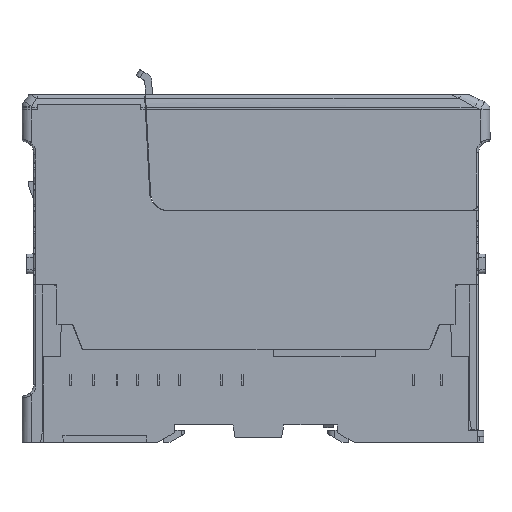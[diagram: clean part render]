
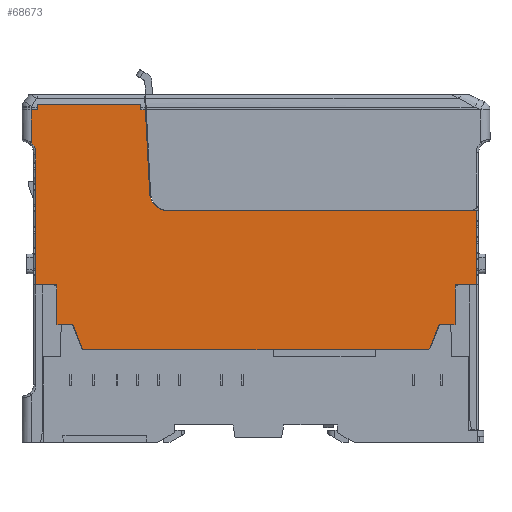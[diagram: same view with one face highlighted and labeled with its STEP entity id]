
A CAD part, left-side view. The second image highlights one B-rep face of the part: STEP entity #68673.
In plain terms, the highlighted planar face has unit normal (-1, 0, 0).
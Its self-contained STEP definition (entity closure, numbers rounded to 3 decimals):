
#54202=DIRECTION('',(0.,0.,1.));
#54203=VECTOR('',#54202,16.);
#54204=CARTESIAN_POINT('',(-2.1,3.,34.));
#54205=LINE('',#54204,#54203);
#54823=CARTESIAN_POINT('',(-2.1,98.034,
62.05));
#55124=CARTESIAN_POINT('',(-2.1,98.034,
62.05));
#55125=CARTESIAN_POINT('',(-2.1,98.03,
62.05));
#55126=CARTESIAN_POINT('',(-2.1,98.023,
62.05));
#55127=CARTESIAN_POINT('',(-2.1,98.011,
62.05));
#55128=CARTESIAN_POINT('',(-2.1,98.004,62.05));
#55129=CARTESIAN_POINT('',(-2.1,98.,62.05));
#55131=DIRECTION('',(0.,0.,-1.));
#55132=VECTOR('',#55131,28.05);
#55133=CARTESIAN_POINT('',(-2.1,98.,62.05));
#55134=LINE('',#55133,#55132);
#55223=CARTESIAN_POINT('',(-2.1,101.,62.5));
#55224=DIRECTION('',(-1.,0.,0.));
#55225=DIRECTION('',(0.,-0.989,-0.15));
#55226=AXIS2_PLACEMENT_3D('',#55223,#55224,#55225);
#55228=DIRECTION('',(0.,0.,1.));
#55229=VECTOR('',#55228,7.064);
#55230=CARTESIAN_POINT('',(-2.1,99.,
64.736));
#55231=LINE('',#55230,#55229);
#55232=DIRECTION('',(0.,0.,1.));
#55233=VECTOR('',#55232,1.2);
#55234=CARTESIAN_POINT('',(-2.1,97.705,71.8));
#55235=LINE('',#55234,#55233);
#55236=DIRECTION('',(0.,-1.,0.));
#55237=VECTOR('',#55236,22.278);
#55238=CARTESIAN_POINT('',(-2.1,97.705,73.));
#55239=LINE('',#55238,#55237);
#55240=DIRECTION('',(0.,-0.052,-0.999));
#55241=VECTOR('',#55240,1.202);
#55242=CARTESIAN_POINT('',(-2.1,75.427,73.));
#55243=LINE('',#55242,#55241);
#55244=DIRECTION('',(0.,-0.052,-0.999));
#55245=VECTOR('',#55244,18.034);
#55246=CARTESIAN_POINT('',(-2.1,74.385,71.8));
#55247=LINE('',#55246,#55245);
#55248=CARTESIAN_POINT('',(-2.1,69.446,54.));
#55249=DIRECTION('',(-1.,0.,0.));
#55250=DIRECTION('',(0.,0.999,-0.052));
#55251=AXIS2_PLACEMENT_3D('',#55248,#55249,#55250);
#55253=DIRECTION('',(0.,-1.,0.));
#55254=VECTOR('',#55253,66.446);
#55255=CARTESIAN_POINT('',(-2.1,69.446,50.));
#55256=LINE('',#55255,#55254);
#55257=DIRECTION('',(0.,1.,0.));
#55258=VECTOR('',#55257,4.55);
#55259=CARTESIAN_POINT('',(-2.1,3.,34.));
#55260=LINE('',#55259,#55258);
#55261=DIRECTION('',(0.,0.,-1.));
#55262=VECTOR('',#55261,8.549);
#55263=CARTESIAN_POINT('',(-2.1,7.55,34.));
#55264=LINE('',#55263,#55262);
#55265=DIRECTION('',(0.,1.,0.));
#55266=VECTOR('',#55265,3.416);
#55267=CARTESIAN_POINT('',(-2.1,7.55,25.451));
#55268=LINE('',#55267,#55266);
#55269=DIRECTION('',(0.,0.366,-0.931));
#55270=VECTOR('',#55269,5.175);
#55271=CARTESIAN_POINT('',(-2.1,10.966,25.451));
#55272=LINE('',#55271,#55270);
#55273=CARTESIAN_POINT('',(-2.1,13.789,21.));
#55274=DIRECTION('',(1.,0.,0.));
#55275=DIRECTION('',(0.,-0.931,-0.366));
#55276=AXIS2_PLACEMENT_3D('',#55273,#55274,#55275);
#55278=DIRECTION('',(0.,1.,0.));
#55279=VECTOR('',#55278,73.422);
#55280=CARTESIAN_POINT('',(-2.1,13.789,20.));
#55281=LINE('',#55280,#55279);
#55282=CARTESIAN_POINT('',(-2.1,87.211,21.));
#55283=DIRECTION('',(1.,0.,0.));
#55284=DIRECTION('',(0.,0.,-1.));
#55285=AXIS2_PLACEMENT_3D('',#55282,#55283,#55284);
#55287=DIRECTION('',(0.,0.366,0.931));
#55288=VECTOR('',#55287,5.175);
#55289=CARTESIAN_POINT('',(-2.1,88.142,20.634));
#55290=LINE('',#55289,#55288);
#55291=DIRECTION('',(0.,1.,0.));
#55292=VECTOR('',#55291,3.416);
#55293=CARTESIAN_POINT('',(-2.1,90.034,25.451));
#55294=LINE('',#55293,#55292);
#55295=DIRECTION('',(0.,0.,1.));
#55296=VECTOR('',#55295,8.549);
#55297=CARTESIAN_POINT('',(-2.1,93.45,25.451));
#55298=LINE('',#55297,#55296);
#55299=DIRECTION('',(0.,1.,0.));
#55300=VECTOR('',#55299,4.55);
#55301=CARTESIAN_POINT('',(-2.1,93.45,34.));
#55302=LINE('',#55301,#55300);
#55479=DIRECTION('',(0.,1.,0.));
#55480=VECTOR('',#55479,0.98);
#55481=CARTESIAN_POINT('',(-2.1,74.385,71.8));
#55482=LINE('',#55481,#55480);
#55528=DIRECTION('',(0.,1.,0.));
#55529=VECTOR('',#55528,1.297);
#55530=CARTESIAN_POINT('',(-2.1,97.705,71.8));
#55531=LINE('',#55530,#55529);
#64460=CARTESIAN_POINT('',(-2.1,3.,50.));
#64462=VERTEX_POINT('',#64460);
#64463=CARTESIAN_POINT('',(-2.1,69.446,50.));
#64464=VERTEX_POINT('',#64463);
#64637=CARTESIAN_POINT('',(-2.1,3.,34.));
#64638=VERTEX_POINT('',#64637);
#65106=VERTEX_POINT('',#54823);
#65273=CARTESIAN_POINT('',(-2.1,97.705,73.));
#65274=VERTEX_POINT('',#65273);
#65275=CARTESIAN_POINT('',(-2.1,97.705,71.8));
#65276=VERTEX_POINT('',#65275);
#65348=CARTESIAN_POINT('',(-2.1,99.001,
71.8));
#65349=VERTEX_POINT('',#65348);
#65350=CARTESIAN_POINT('',(-2.1,75.364,71.8));
#65351=VERTEX_POINT('',#65350);
#65352=CARTESIAN_POINT('',(-2.1,74.385,71.8));
#65353=VERTEX_POINT('',#65352);
#65354=CARTESIAN_POINT('',(-2.1,98.,62.05));
#65355=CARTESIAN_POINT('',(-2.1,98.,34.));
#65356=VERTEX_POINT('',#65354);
#65357=VERTEX_POINT('',#65355);
#65358=CARTESIAN_POINT('',(-2.1,99.,64.736));
#65359=VERTEX_POINT('',#65358);
#65360=CARTESIAN_POINT('',(-2.1,75.427,73.));
#65361=VERTEX_POINT('',#65360);
#65362=CARTESIAN_POINT('',(-2.1,73.441,53.791));
#65363=VERTEX_POINT('',#65362);
#65364=CARTESIAN_POINT('',(-2.1,7.55,34.));
#65365=VERTEX_POINT('',#65364);
#65366=CARTESIAN_POINT('',(-2.1,7.55,25.451));
#65367=VERTEX_POINT('',#65366);
#65368=CARTESIAN_POINT('',(-2.1,10.966,25.451));
#65369=VERTEX_POINT('',#65368);
#65370=CARTESIAN_POINT('',(-2.1,12.858,20.634));
#65371=VERTEX_POINT('',#65370);
#65372=CARTESIAN_POINT('',(-2.1,13.789,20.));
#65373=VERTEX_POINT('',#65372);
#65374=CARTESIAN_POINT('',(-2.1,87.211,20.));
#65375=VERTEX_POINT('',#65374);
#65376=CARTESIAN_POINT('',(-2.1,88.142,20.634));
#65377=VERTEX_POINT('',#65376);
#65378=CARTESIAN_POINT('',(-2.1,90.034,25.451));
#65379=VERTEX_POINT('',#65378);
#65380=CARTESIAN_POINT('',(-2.1,93.45,25.451));
#65381=VERTEX_POINT('',#65380);
#65382=CARTESIAN_POINT('',(-2.1,93.45,34.));
#65383=VERTEX_POINT('',#65382);
#68622=CARTESIAN_POINT('',(-2.1,0.,0.));
#68623=DIRECTION('',(-1.,0.,0.));
#68624=DIRECTION('',(0.,-1.,0.));
#68625=AXIS2_PLACEMENT_3D('',#68622,#68623,#68624);
#68626=PLANE('',#68625);
#68627=ORIENTED_EDGE('',*,*,#68571,.F.);
#68628=ORIENTED_EDGE('',*,*,#68569,.F.);
#68630=ORIENTED_EDGE('',*,*,#68629,.T.);
#68632=ORIENTED_EDGE('',*,*,#68631,.T.);
#68634=ORIENTED_EDGE('',*,*,#68633,.F.);
#68636=ORIENTED_EDGE('',*,*,#68635,.T.);
#68638=ORIENTED_EDGE('',*,*,#68637,.T.);
#68640=ORIENTED_EDGE('',*,*,#68639,.T.);
#68642=ORIENTED_EDGE('',*,*,#68641,.F.);
#68644=ORIENTED_EDGE('',*,*,#68643,.T.);
#68646=ORIENTED_EDGE('',*,*,#68645,.T.);
#68648=ORIENTED_EDGE('',*,*,#68647,.T.);
#68649=ORIENTED_EDGE('',*,*,#67772,.F.);
#68650=ORIENTED_EDGE('',*,*,#68062,.T.);
#68652=ORIENTED_EDGE('',*,*,#68651,.T.);
#68654=ORIENTED_EDGE('',*,*,#68653,.T.);
#68656=ORIENTED_EDGE('',*,*,#68655,.T.);
#68658=ORIENTED_EDGE('',*,*,#68657,.T.);
#68660=ORIENTED_EDGE('',*,*,#68659,.T.);
#68662=ORIENTED_EDGE('',*,*,#68661,.T.);
#68664=ORIENTED_EDGE('',*,*,#68663,.T.);
#68666=ORIENTED_EDGE('',*,*,#68665,.T.);
#68668=ORIENTED_EDGE('',*,*,#68667,.T.);
#68670=ORIENTED_EDGE('',*,*,#68669,.T.);
#68671=EDGE_LOOP('',(#68627,#68628,#68630,#68632,#68634,#68636,#68638,#68640,
#68642,#68644,#68646,#68648,#68649,#68650,#68652,#68654,#68656,#68658,#68660,
#68662,#68664,#68666,#68668,#68670));
#68672=FACE_OUTER_BOUND('',#68671,.F.);
#68673=ADVANCED_FACE('',(#68672),#68626,.T.);
#55130=B_SPLINE_CURVE_WITH_KNOTS('',3,(#55124,#55125,#55126,#55127,#55128,
#55129),.UNSPECIFIED.,.F.,.F.,(4,1,1,4),(0.,0.333,
0.667,1.),.UNSPECIFIED.);
#55227=CIRCLE('',#55226,3.);
#55252=CIRCLE('',#55251,4.);
#55277=CIRCLE('',#55276,1.);
#55286=CIRCLE('',#55285,1.);
#67772=EDGE_CURVE('',#64638,#64462,#54205,.T.);
#68062=EDGE_CURVE('',#64638,#65365,#55260,.T.);
#68569=EDGE_CURVE('',#65106,#65356,#55130,.T.);
#68571=EDGE_CURVE('',#65356,#65357,#55134,.T.);
#68629=EDGE_CURVE('',#65106,#65359,#55227,.T.);
#68631=EDGE_CURVE('',#65359,#65349,#55231,.T.);
#68633=EDGE_CURVE('',#65276,#65349,#55531,.T.);
#68635=EDGE_CURVE('',#65276,#65274,#55235,.T.);
#68637=EDGE_CURVE('',#65274,#65361,#55239,.T.);
#68639=EDGE_CURVE('',#65361,#65351,#55243,.T.);
#68641=EDGE_CURVE('',#65353,#65351,#55482,.T.);
#68643=EDGE_CURVE('',#65353,#65363,#55247,.T.);
#68645=EDGE_CURVE('',#65363,#64464,#55252,.T.);
#68647=EDGE_CURVE('',#64464,#64462,#55256,.T.);
#68651=EDGE_CURVE('',#65365,#65367,#55264,.T.);
#68653=EDGE_CURVE('',#65367,#65369,#55268,.T.);
#68655=EDGE_CURVE('',#65369,#65371,#55272,.T.);
#68657=EDGE_CURVE('',#65371,#65373,#55277,.T.);
#68659=EDGE_CURVE('',#65373,#65375,#55281,.T.);
#68661=EDGE_CURVE('',#65375,#65377,#55286,.T.);
#68663=EDGE_CURVE('',#65377,#65379,#55290,.T.);
#68665=EDGE_CURVE('',#65379,#65381,#55294,.T.);
#68667=EDGE_CURVE('',#65381,#65383,#55298,.T.);
#68669=EDGE_CURVE('',#65383,#65357,#55302,.T.);
